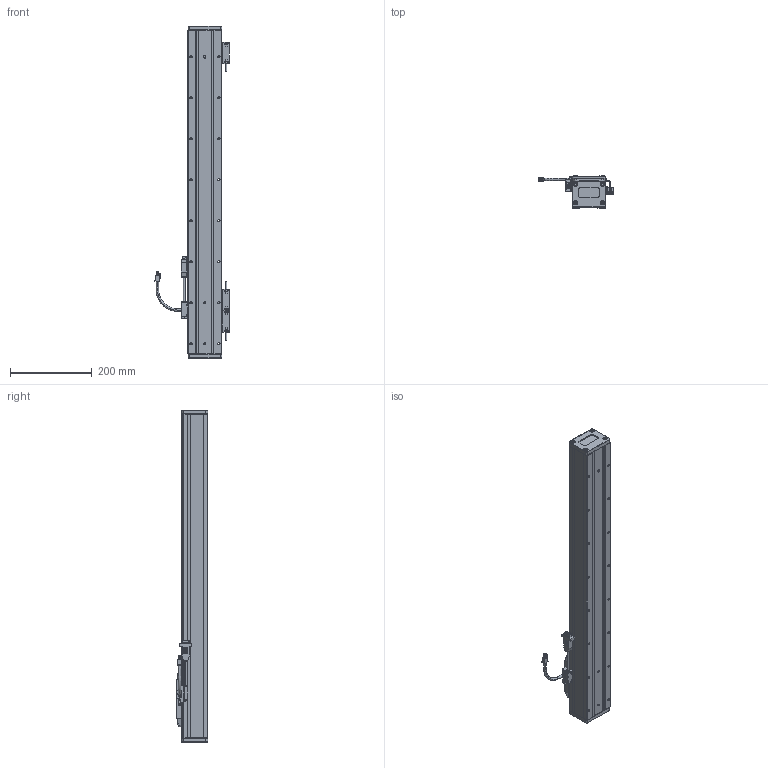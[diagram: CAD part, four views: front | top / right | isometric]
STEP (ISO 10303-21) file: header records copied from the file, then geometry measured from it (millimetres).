
FILE_DESCRIPTION(('Open CASCADE Model'),'2;1');
FILE_NAME('Open CASCADE Shape Model','2025-11-07T02:23:43',('Author'),( 'Open CASCADE'),'Open CASCADE STEP processor 7.6','Open CASCADE 7.6' ,'Unknown');
FILE_SCHEMA(('AUTOMOTIVE_DESIGN { 1 0 10303 214 1 1 1 1 }'));
Length unit declared in the file: millimetre
Products named in the file (24): Open CASCADE STEP translator 7.6 180; Open CASCADE STEP translator 7.6 180.1; Open CASCADE STEP translator 7.6 180.2; Open CASCADE STEP translator 7.6 180.3; Open CASCADE STEP translator 7.6 180.4; Open CASCADE STEP translator 7.6 180.5; Open CASCADE STEP translator 7.6 180.6; Open CASCADE STEP translator 7.6 180.7; Open CASCADE STEP translator 7.6 180.7.1; Open CASCADE STEP translator 7.6 180.7.1.1; Open CASCADE STEP translator 7.6 180.7.1.2; Open CASCADE STEP translator 7.6 180.8; Open CASCADE STEP translator 7.6 180.9; Open CASCADE STEP translator 7.6 180.10; Open CASCADE STEP translator 7.6 180.10.1; Open CASCADE STEP translator 7.6 180.10.1.1; Open CASCADE STEP translator 7.6 180.10.1.2; Open CASCADE STEP translator 7.6 180.10.1.3; Open CASCADE STEP translator 7.6 180.11; Open CASCADE STEP translator 7.6 180.12; Open CASCADE STEP translator 7.6 180.13; Open CASCADE STEP translator 7.6 180.14; Open CASCADE STEP translator 7.6 180.15; Open CASCADE STEP translator 7.6 180.16
Assembly tree (23 placements, depth 4):
  Open CASCADE STEP translator 7.6 180
    Open CASCADE STEP translator 7.6 180.1
    Open CASCADE STEP translator 7.6 180.2
    Open CASCADE STEP translator 7.6 180.3
    Open CASCADE STEP translator 7.6 180.4
    Open CASCADE STEP translator 7.6 180.5
    Open CASCADE STEP translator 7.6 180.6
    Open CASCADE STEP translator 7.6 180.7
      Open CASCADE STEP translator 7.6 180.7.1
        Open CASCADE STEP translator 7.6 180.7.1.1
        Open CASCADE STEP translator 7.6 180.7.1.2
    Open CASCADE STEP translator 7.6 180.8
    Open CASCADE STEP translator 7.6 180.9
    Open CASCADE STEP translator 7.6 180.10
      Open CASCADE STEP translator 7.6 180.10.1
        Open CASCADE STEP translator 7.6 180.10.1.1
        Open CASCADE STEP translator 7.6 180.10.1.2
        Open CASCADE STEP translator 7.6 180.10.1.3
    Open CASCADE STEP translator 7.6 180.11
    Open CASCADE STEP translator 7.6 180.12
    Open CASCADE STEP translator 7.6 180.13
    Open CASCADE STEP translator 7.6 180.14
    Open CASCADE STEP translator 7.6 180.15
    Open CASCADE STEP translator 7.6 180.16
Bounding box: 181.25 x 78 x 810 mm (x, y, z)
Volume: 2496981.1 mm3; surface area: 550353.8 mm2
Topology: 19 solids, 19 shells, 1920 faces, 4851 edges, 3081 vertices
Faces by surface type: plane 1078, cylinder 640, cone 112, torus 54, bspline 30, sphere 6
Entity records: 131877 total; most frequent: CARTESIAN_POINT 34691, DIRECTION 18397, LINE 11458, VECTOR 11458, ORIENTED_EDGE 9604, PCURVE 9604, DEFINITIONAL_REPRESENTATION 9604, EDGE_CURVE 4802
